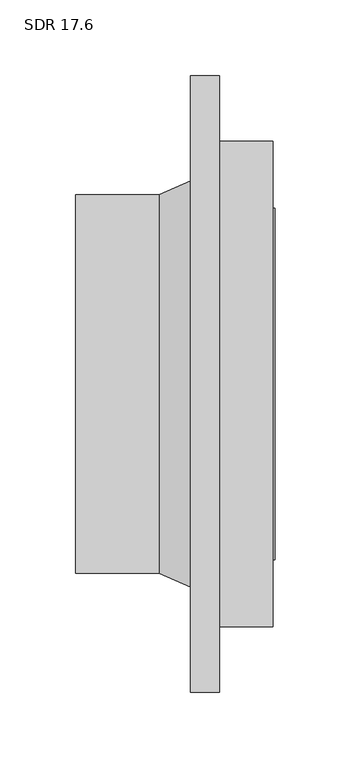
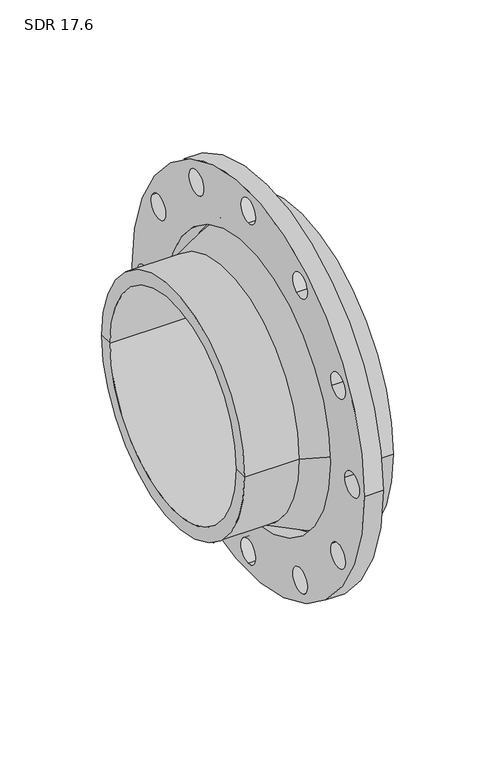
"""IFC4 building model written with IfcOpenShell, lengths in millimetres: valve geometry, Aquatherm - Flange Adapter Butt-Weld : SDR 17.6."""

from ifc_helpers import new_model, si_unit, point, frame, frame_2d, origin, origin_2d, place, context, project, spatial, polyline, circle_curve, trimmed, segment, composite_curve, outline, extrude, source, transform, mapped, element, save
from ifc_brep_helpers import plane_surface, cylinder_surface, revolved_surface, advanced_brep


def sdr_17_6_461b6073(model_context):
    return source(origin(), model_context, "Body", "SolidModel", [
        extrude(outline(composite_curve([segment(trimmed(circle_curve(origin_2d(), 203.2), [point((-203.2, 0.0))], [point((203.2, 0.0))], False, "CARTESIAN"), True, "CONTINUOUS"), segment(trimmed(circle_curve(origin_2d(), 203.2), [point((203.2, 0.0))], [point((-203.2, 0.0))], False, "CARTESIAN"), True, "CONTINUOUS")], self_intersect=False), holes=[composite_curve([segment(trimmed(circle_curve(origin_2d(), 143.51), [point((-143.51, 0.0))], [point((143.51, 0.0))], True, "CARTESIAN"), True, "CONTINUOUS"), segment(trimmed(circle_curve(origin_2d(), 143.51), [point((143.51, 0.0))], [point((-143.51, 0.0))], True, "CARTESIAN"), True, "CONTINUOUS")], self_intersect=False), composite_curve([segment(trimmed(circle_curve(frame_2d((181.61, 0.0)), 12.7), [point((168.91, 0.0))], [point((194.31, 0.0))], True, "CARTESIAN"), True, "CONTINUOUS"), segment(trimmed(circle_curve(frame_2d((181.61, 0.0)), 12.7), [point((194.31, 0.0))], [point((168.91, 0.0))], True, "CARTESIAN"), True, "CONTINUOUS")], self_intersect=False), composite_curve([segment(trimmed(circle_curve(frame_2d((157.2788736, -90.805)), 12.7), [point((146.280351, -84.455))], [point((168.2773962, -97.155))], True, "CARTESIAN"), True, "CONTINUOUS"), segment(trimmed(circle_curve(frame_2d((157.2788736, -90.805)), 12.7), [point((168.2773962, -97.155))], [point((146.280351, -84.455))], True, "CARTESIAN"), True, "CONTINUOUS")], self_intersect=False), composite_curve([segment(trimmed(circle_curve(frame_2d((157.2788736, 90.805)), 12.7), [point((146.280351, 84.455))], [point((168.2773962, 97.155))], True, "CARTESIAN"), True, "CONTINUOUS"), segment(trimmed(circle_curve(frame_2d((157.2788736, 90.805)), 12.7), [point((168.2773962, 97.155))], [point((146.280351, 84.455))], True, "CARTESIAN"), True, "CONTINUOUS")], self_intersect=False), composite_curve([segment(trimmed(circle_curve(frame_2d((90.805, 157.2788736)), 12.7), [point((84.455, 146.280351))], [point((97.155, 168.2773962))], True, "CARTESIAN"), True, "CONTINUOUS"), segment(trimmed(circle_curve(frame_2d((90.805, 157.2788736)), 12.7), [point((97.155, 168.2773962))], [point((84.455, 146.280351))], True, "CARTESIAN"), True, "CONTINUOUS")], self_intersect=False), composite_curve([segment(trimmed(circle_curve(frame_2d((0.0, 181.61)), 12.7), [point((0.0, 168.91))], [point((0.0, 194.31))], True, "CARTESIAN"), True, "CONTINUOUS"), segment(trimmed(circle_curve(frame_2d((0.0, 181.61)), 12.7), [point((0.0, 194.31))], [point((0.0, 168.91))], True, "CARTESIAN"), True, "CONTINUOUS")], self_intersect=False), composite_curve([segment(trimmed(circle_curve(frame_2d((-90.805, 157.2788736)), 12.7), [point((-84.455, 146.280351))], [point((-97.155, 168.2773962))], True, "CARTESIAN"), True, "CONTINUOUS"), segment(trimmed(circle_curve(frame_2d((-90.805, 157.2788736)), 12.7), [point((-97.155, 168.2773962))], [point((-84.455, 146.280351))], True, "CARTESIAN"), True, "CONTINUOUS")], self_intersect=False), composite_curve([segment(trimmed(circle_curve(frame_2d((-157.2788736, 90.805)), 12.7), [point((-146.280351, 84.455))], [point((-168.2773962, 97.155))], True, "CARTESIAN"), True, "CONTINUOUS"), segment(trimmed(circle_curve(frame_2d((-157.2788736, 90.805)), 12.7), [point((-168.2773962, 97.155))], [point((-146.280351, 84.455))], True, "CARTESIAN"), True, "CONTINUOUS")], self_intersect=False), composite_curve([segment(trimmed(circle_curve(frame_2d((-181.61, 0.0)), 12.7), [point((-168.91, 0.0))], [point((-194.31, 0.0))], True, "CARTESIAN"), True, "CONTINUOUS"), segment(trimmed(circle_curve(frame_2d((-181.61, 0.0)), 12.7), [point((-194.31, 0.0))], [point((-168.91, 0.0))], True, "CARTESIAN"), True, "CONTINUOUS")], self_intersect=False), composite_curve([segment(trimmed(circle_curve(frame_2d((-157.2788736, -90.805)), 12.7), [point((-146.280351, -84.455))], [point((-168.2773962, -97.155))], True, "CARTESIAN"), True, "CONTINUOUS"), segment(trimmed(circle_curve(frame_2d((-157.2788736, -90.805)), 12.7), [point((-168.2773962, -97.155))], [point((-146.280351, -84.455))], True, "CARTESIAN"), True, "CONTINUOUS")], self_intersect=False), composite_curve([segment(trimmed(circle_curve(frame_2d((-90.805, -157.2788736)), 12.7), [point((-84.455, -146.280351))], [point((-97.155, -168.2773962))], True, "CARTESIAN"), True, "CONTINUOUS"), segment(trimmed(circle_curve(frame_2d((-90.805, -157.2788736)), 12.7), [point((-97.155, -168.2773962))], [point((-84.455, -146.280351))], True, "CARTESIAN"), True, "CONTINUOUS")], self_intersect=False), composite_curve([segment(trimmed(circle_curve(frame_2d((0.0, -181.61)), 12.7), [point((0.0, -168.91))], [point((0.0, -194.31))], True, "CARTESIAN"), True, "CONTINUOUS"), segment(trimmed(circle_curve(frame_2d((0.0, -181.61)), 12.7), [point((0.0, -194.31))], [point((0.0, -168.91))], True, "CARTESIAN"), True, "CONTINUOUS")], self_intersect=False), composite_curve([segment(trimmed(circle_curve(frame_2d((90.805, -157.2788736)), 12.7), [point((84.455, -146.280351))], [point((97.155, -168.2773962))], True, "CARTESIAN"), True, "CONTINUOUS"), segment(trimmed(circle_curve(frame_2d((90.805, -157.2788736)), 12.7), [point((97.155, -168.2773962))], [point((84.455, -146.280351))], True, "CARTESIAN"), True, "CONTINUOUS")], self_intersect=False)]), frame((-19.05, 0.0, 0.0), z_axis=(1.0, 0.0, 0.0), x_axis=(0.0, 1.0, 0.0)), (0.0, 0.0, 1.0), 19.05),
        advanced_brep(
        [(35.052, 160.02, 0.0), (35.052, -160.02, 0.0), (0.0, -160.02, 0.0), (0.0, 160.02, 0.0), (36.6395, 110.744, 0.0), (36.6395, -110.744, 0.0), (36.6395, -115.824, 0.0), (36.6395, 115.824, 0.0), (-94.996, 110.744, 0.0), (-94.996, -110.744, 0.0), (-94.996, 124.968, 0.0), (-94.996, -124.968, 0.0), (-39.878, 124.968, 0.0), (-39.878, -124.968, 0.0), (0.0, -142.24, 0.0), (0.0, 142.24, 0.0), (35.052, 115.824, 0.0), (35.052, -115.824, 0.0)],
        [
            (0, 1, circle_curve(frame((35.052, 0.0, 0.0), z_axis=(-1.0, 0.0, 0.0), x_axis=(0.0, -1.0, 0.0)), 160.02)),
            (1, 2),
            (2, 3, circle_curve(frame((0.0, 0.0, 0.0), z_axis=(1.0, 0.0, 0.0), x_axis=(0.0, -1.0, 0.0)), 160.02)),
            (3, 0),
            (1, 0, circle_curve(frame((35.052, 0.0, 0.0), z_axis=(-1.0, 0.0, 0.0), x_axis=(0.0, -1.0, 0.0)), 160.02)),
            (3, 2, circle_curve(frame((0.0, 0.0, 0.0), z_axis=(1.0, 0.0, 0.0), x_axis=(0.0, -1.0, 0.0)), 160.02)),
            (4, 5, circle_curve(frame((36.6395, 0.0, 0.0), z_axis=(-1.0, 0.0, 0.0), x_axis=(0.0, -1.0, 0.0)), 110.744)),
            (5, 6),
            (6, 7, circle_curve(frame((36.6395, 0.0, 0.0), z_axis=(1.0, 0.0, 0.0), x_axis=(0.0, -1.0, 0.0)), 115.824)),
            (7, 4),
            (5, 4, circle_curve(frame((36.6395, 0.0, 0.0), z_axis=(-1.0, 0.0, 0.0), x_axis=(0.0, -1.0, 0.0)), 110.744)),
            (7, 6, circle_curve(frame((36.6395, 0.0, 0.0), z_axis=(1.0, 0.0, 0.0), x_axis=(0.0, -1.0, 0.0)), 115.824)),
            (8, 9, circle_curve(frame((-94.996, 0.0, 0.0), z_axis=(-1.0, 0.0, 0.0), x_axis=(0.0, -1.0, 0.0)), 110.744)),
            (9, 5),
            (4, 8),
            (9, 8, circle_curve(frame((-94.996, 0.0, 0.0), z_axis=(-1.0, 0.0, 0.0), x_axis=(0.0, -1.0, 0.0)), 110.744)),
            (10, 11, circle_curve(frame((-94.996, 0.0, 0.0), z_axis=(-1.0, 0.0, 0.0), x_axis=(0.0, -1.0, 0.0)), 124.968)),
            (11, 9),
            (8, 10),
            (11, 10, circle_curve(frame((-94.996, 0.0, 0.0), z_axis=(-1.0, 0.0, 0.0), x_axis=(0.0, -1.0, 0.0)), 124.968)),
            (12, 13, circle_curve(frame((-39.878, 0.0, 0.0), z_axis=(-1.0, 0.0, 0.0), x_axis=(0.0, -1.0, 0.0)), 124.968)),
            (13, 11),
            (10, 12),
            (13, 12, circle_curve(frame((-39.878, 0.0, 0.0), z_axis=(-1.0, 0.0, 0.0), x_axis=(0.0, -1.0, 0.0)), 124.968)),
            (2, 14),
            (14, 15, circle_curve(frame((0.0, 0.0, 0.0), z_axis=(1.0, 0.0, 0.0), x_axis=(0.0, -1.0, 0.0)), 142.24)),
            (15, 3),
            (15, 14, circle_curve(frame((0.0, 0.0, 0.0), z_axis=(1.0, 0.0, 0.0), x_axis=(0.0, -1.0, 0.0)), 142.24)),
            (16, 17, circle_curve(frame((35.052, 0.0, 0.0), z_axis=(-1.0, 0.0, 0.0), x_axis=(0.0, -1.0, 0.0)), 115.824)),
            (17, 1),
            (0, 16),
            (17, 16, circle_curve(frame((35.052, 0.0, 0.0), z_axis=(-1.0, 0.0, 0.0), x_axis=(0.0, -1.0, 0.0)), 115.824)),
            (6, 17),
            (16, 7),
            (14, 13),
            (12, 15),
        ],
        [
            cylinder_surface(frame((1475.6909321, 0.0, 0.0), z_axis=(1.0, 0.0, 0.0), x_axis=(0.0, -1.0, 0.0)), 160.02),
            plane_surface(frame((36.6395, 0.0, 0.0), z_axis=(1.0, 0.0, 0.0), x_axis=(0.0, -1.0, 0.0))),
            revolved_surface(polyline([(36.6395, -110.744, 0.0), (-94.9960000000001, -110.744, 0.0)]), (1475.6909321, 0.0, 0.0), (1.0, 0.0, 0.0)),
            plane_surface(frame((-94.996, 0.0, 0.0), z_axis=(-1.0, 0.0, 0.0), x_axis=(0.0, -1.0, 0.0))),
            cylinder_surface(frame((1475.6909321, 0.0, 0.0), z_axis=(1.0, 0.0, 0.0), x_axis=(0.0, -1.0, 0.0)), 124.968),
            plane_surface(frame((0.0, 0.0, 0.0), z_axis=(-1.0, 0.0, 0.0), x_axis=(0.0, -1.0, 0.0))),
            plane_surface(frame((35.052, 0.0, 0.0), z_axis=(1.0, 0.0, 0.0), x_axis=(0.0, -1.0, 0.0))),
            cylinder_surface(frame((1475.6909321, 0.0, 0.0), z_axis=(1.0, 0.0, 0.0), x_axis=(0.0, -1.0, 0.0)), 115.824),
            revolved_surface(polyline([(-39.878, -124.968, 0.0), (0.0, -142.24, 0.0)]), (1475.6909321, 0.0, 0.0), (1.0, 0.0, 0.0)),
        ],
        [
            (0, [[1, 2, 3, 4]]),
            (0, [[5, -4, 6, -2]]),
            (1, [[7, 8, 9, 10]]),
            (1, [[11, -10, 12, -8]]),
            (2, [[13, 14, -7, 15]]),
            (2, [[16, -15, -11, -14]]),
            (3, [[17, 18, -13, 19]]),
            (3, [[20, -19, -16, -18]]),
            (4, [[21, 22, -17, 23]]),
            (4, [[24, -23, -20, -22]]),
            (5, [[-3, 25, 26, 27]]),
            (5, [[-6, -27, 28, -25]]),
            (6, [[29, 30, -1, 31]]),
            (6, [[32, -31, -5, -30]]),
            (7, [[-9, 33, -29, 34]]),
            (7, [[-12, -34, -32, -33]]),
            (8, [[-26, 35, -21, 36]]),
            (8, [[-28, -36, -24, -35]]),
        ],
    ),
    ])


if __name__ == "__main__":
    model = new_model("IFC4")
    model_context = context("Model", 3, world=origin())
    ifc_project = project(units=[si_unit("LENGTHUNIT", "METRE", prefix="MILLI")], contexts=[model_context])
    site = spatial("IfcSite", under=ifc_project)
    building = spatial("IfcBuilding", under=site)
    placement = place(None, origin())
    sdr_17_6_shape = sdr_17_6_461b6073(model_context)
    element("IfcValve", 1, ObjectType="Aquatherm - Flange Adapter Butt-Weld : SDR 17.6", at=placement, inside=building, context=model_context, shape_type="MappedRepresentation", body=[
        mapped(sdr_17_6_shape, transform((0.0, 0.0, 0.0), x_axis=(1.0, 0.0, 0.0), y_axis=(0.0, 1.0, 0.0), z_axis=(0.0, 0.0, 1.0))),
    ])
    save(model, "model.ifc")
